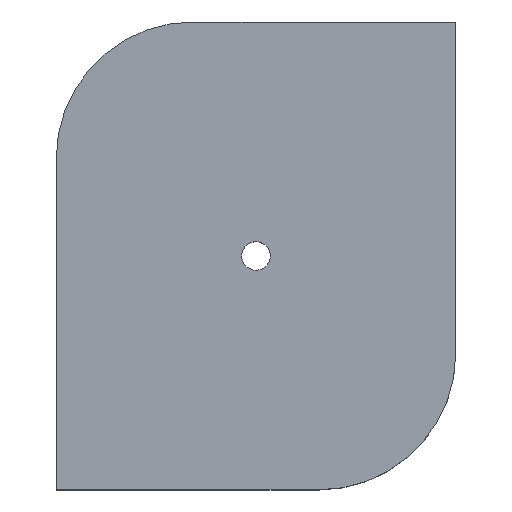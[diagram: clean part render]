
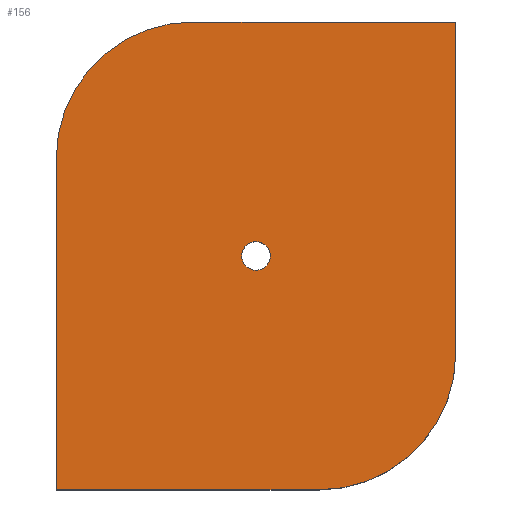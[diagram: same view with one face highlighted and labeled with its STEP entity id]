
A CAD part, top view. The second image highlights one B-rep face of the part: STEP entity #156.
In plain terms, the highlighted planar face has unit normal (0, 0, 1).
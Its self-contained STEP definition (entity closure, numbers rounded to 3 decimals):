
#63=CARTESIAN_POINT('Vertex',(54.825,70.508,32.)) ;
#77=CARTESIAN_POINT('Vertex',(62.175,66.492,32.)) ;
#80=CARTESIAN_POINT('Axis2P3D Location',(58.5,68.5,32.)) ;
#92=CARTESIAN_POINT('Axis2P3D Location',(0.,0.,32.)) ;
#97=CARTESIAN_POINT('Line Origine',(0.,48.5,32.)) ;
#101=CARTESIAN_POINT('Vertex',(0.,97.,32.)) ;
#103=CARTESIAN_POINT('Vertex',(0.,0.,32.)) ;
#106=CARTESIAN_POINT('Line Origine',(38.5,0.,32.)) ;
#110=CARTESIAN_POINT('Vertex',(77.,0.,32.)) ;
#113=CARTESIAN_POINT('Axis2P3D Location',(77.,40.,32.)) ;
#117=CARTESIAN_POINT('Vertex',(117.,40.,32.)) ;
#120=CARTESIAN_POINT('Line Origine',(117.,88.5,32.)) ;
#124=CARTESIAN_POINT('Vertex',(117.,137.,32.)) ;
#127=CARTESIAN_POINT('Line Origine',(78.5,137.,32.)) ;
#131=CARTESIAN_POINT('Vertex',(40.,137.,32.)) ;
#134=CARTESIAN_POINT('Axis2P3D Location',(40.,97.,32.)) ;
#147=CARTESIAN_POINT('Axis2P3D Location',(58.5,68.5,32.)) ;
#81=DIRECTION('Axis2P3D Direction',(0.,-0.,-1.)) ;
#93=DIRECTION('Axis2P3D Direction',(0.,0.,1.)) ;
#94=DIRECTION('Axis2P3D XDirection',(1.,0.,0.)) ;
#98=DIRECTION('Vector Direction',(0.,-1.,0.)) ;
#107=DIRECTION('Vector Direction',(1.,0.,0.)) ;
#114=DIRECTION('Axis2P3D Direction',(0.,0.,1.)) ;
#121=DIRECTION('Vector Direction',(0.,1.,0.)) ;
#128=DIRECTION('Vector Direction',(-1.,0.,0.)) ;
#135=DIRECTION('Axis2P3D Direction',(0.,0.,1.)) ;
#148=DIRECTION('Axis2P3D Direction',(0.,0.,1.)) ;
#82=AXIS2_PLACEMENT_3D('Circle Axis2P3D',#80,#81,$) ;
#95=AXIS2_PLACEMENT_3D('Plane Axis2P3D',#92,#93,#94) ;
#115=AXIS2_PLACEMENT_3D('Circle Axis2P3D',#113,#114,$) ;
#136=AXIS2_PLACEMENT_3D('Circle Axis2P3D',#134,#135,$) ;
#149=AXIS2_PLACEMENT_3D('Circle Axis2P3D',#147,#148,$) ;
#140=ORIENTED_EDGE('',*,*,#105,.T.) ;
#141=ORIENTED_EDGE('',*,*,#112,.T.) ;
#142=ORIENTED_EDGE('',*,*,#119,.F.) ;
#143=ORIENTED_EDGE('',*,*,#126,.T.) ;
#144=ORIENTED_EDGE('',*,*,#133,.T.) ;
#145=ORIENTED_EDGE('',*,*,#138,.F.) ;
#153=ORIENTED_EDGE('',*,*,#151,.F.) ;
#154=ORIENTED_EDGE('',*,*,#84,.F.) ;
#155=FACE_BOUND('',#152,.T.) ;
#99=VECTOR('Line Direction',#98,1.) ;
#108=VECTOR('Line Direction',#107,1.) ;
#122=VECTOR('Line Direction',#121,1.) ;
#129=VECTOR('Line Direction',#128,1.) ;
#156=ADVANCED_FACE('PartBody',(#146,#155),#96,.T.) ;
#83=CIRCLE('generated circle',#82,4.188) ;
#116=CIRCLE('generated circle',#115,40.) ;
#137=CIRCLE('generated circle',#136,40.) ;
#150=CIRCLE('generated circle',#149,4.188) ;
#84=EDGE_CURVE('',#78,#64,#83,.F.) ;
#105=EDGE_CURVE('',#102,#104,#100,.T.) ;
#112=EDGE_CURVE('',#104,#111,#109,.T.) ;
#119=EDGE_CURVE('',#118,#111,#116,.F.) ;
#126=EDGE_CURVE('',#118,#125,#123,.T.) ;
#133=EDGE_CURVE('',#125,#132,#130,.T.) ;
#138=EDGE_CURVE('',#102,#132,#137,.F.) ;
#151=EDGE_CURVE('',#64,#78,#150,.T.) ;
#139=EDGE_LOOP('',(#140,#141,#142,#143,#144,#145)) ;
#152=EDGE_LOOP('',(#153,#154)) ;
#146=FACE_OUTER_BOUND('',#139,.T.) ;
#100=LINE('Line',#97,#99) ;
#109=LINE('Line',#106,#108) ;
#123=LINE('Line',#120,#122) ;
#130=LINE('Line',#127,#129) ;
#96=PLANE('',#95) ;
#64=VERTEX_POINT('',#63) ;
#78=VERTEX_POINT('',#77) ;
#102=VERTEX_POINT('',#101) ;
#104=VERTEX_POINT('',#103) ;
#111=VERTEX_POINT('',#110) ;
#118=VERTEX_POINT('',#117) ;
#125=VERTEX_POINT('',#124) ;
#132=VERTEX_POINT('',#131) ;
